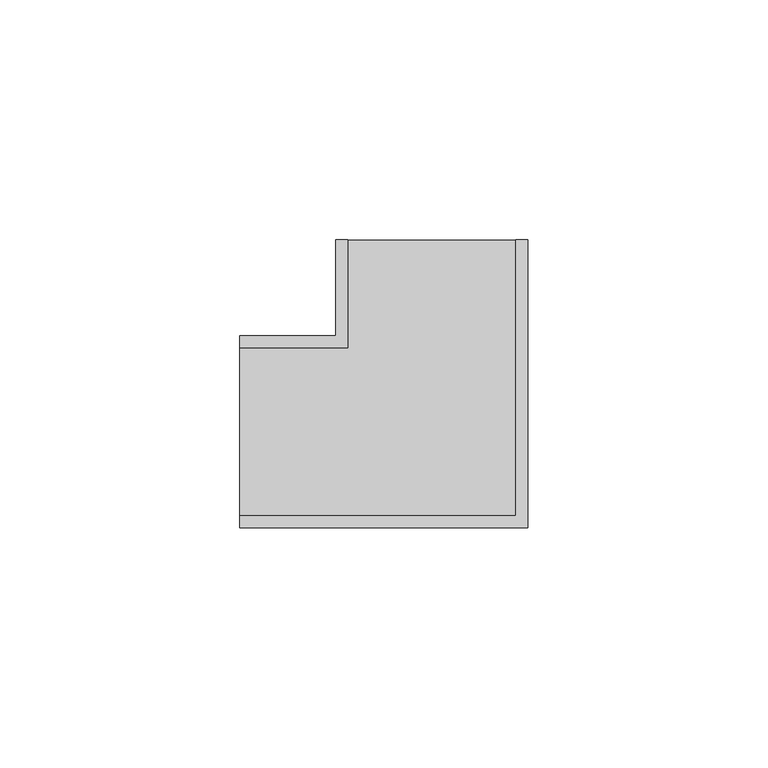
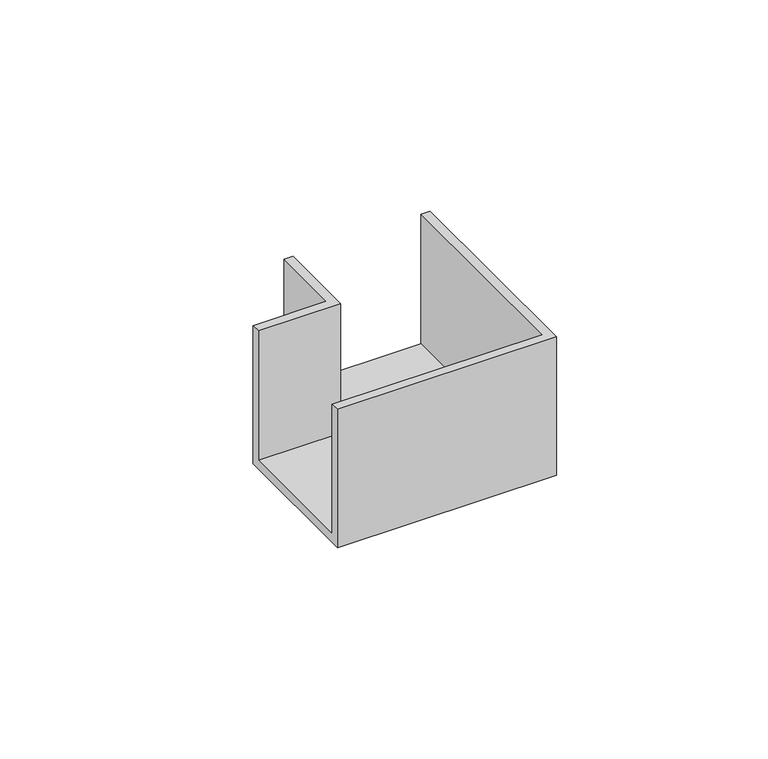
"""IFC4 building model written with IfcOpenShell, lengths in millimetres: cable carrier fitting geometry, КНС_УголПлоский NPAN_ILC_DKC : Угол плоский NPAN_DKC."""

from ifc_helpers import new_model, si_unit, origin, place, context, project, spatial, faceted_brep, source, transform, mapped, element, save


def cable_carrier_fitting_46b331be(model_context):
    return source(origin(), model_context, "Body", "Brep", [
        faceted_brep([(-40.0, 20.0, -20.0), (-40.0, -20.0, -20.0), (-40.0, -20.0, 20.0), (-40.0, -17.5, 20.0), (-40.0, -17.5, -17.5), (-40.0, 17.5, -17.5), (-40.0, 17.5, 20.0), (-40.0, 20.0, 20.0), (-20.0, 20.0, -20.0), (-20.0, 40.0, -20.0), (20.0, 40.0, -20.0), (20.0, -20.0, -20.0), (20.0, -20.0, 20.0), (20.0, 40.0, 20.0), (17.5, 40.0, 20.0), (17.5, -17.5, 20.0), (17.5, -17.5, -17.5), (17.5, 40.0, -17.5), (-17.5, 40.0, -17.5), (-17.5, 17.5, -17.5), (-17.5, 17.5, 20.0), (-17.5, 40.0, 20.0), (-20.0, 40.0, 20.0), (-20.0, 20.0, 20.0)], [[[0, 1, 2, 3, 4, 5, 6, 7]], [[1, 0, 8, 9, 10, 11]], [[2, 1, 11, 12]], [[3, 2, 12, 13, 14, 15]], [[4, 3, 15, 16]], [[5, 4, 16, 17, 18, 19]], [[6, 5, 19, 20]], [[7, 6, 20, 21, 22, 23]], [[0, 7, 23, 8]], [[9, 22, 21, 18, 17, 14, 13, 10]], [[12, 11, 10, 13]], [[16, 15, 14, 17]], [[20, 19, 18, 21]], [[8, 23, 22, 9]]]),
    ])


if __name__ == "__main__":
    model = new_model("IFC4")
    model_context = context("Model", 3, world=origin())
    ifc_project = project(units=[si_unit("LENGTHUNIT", "METRE", prefix="MILLI")], contexts=[model_context])
    site = spatial("IfcSite", under=ifc_project)
    building = spatial("IfcBuilding", under=site)
    placement = place(None, origin())
    cable_carrier_fitting_shape = cable_carrier_fitting_46b331be(model_context)
    element("IfcCableCarrierFitting", 1, ObjectType="КНС_УголПлоский NPAN_ILC_DKC : Угол плоский NPAN_DKC", at=placement, inside=building, context=model_context, shape_type="MappedRepresentation", body=[
        mapped(cable_carrier_fitting_shape, transform((0.0, 0.0, 0.0), x_axis=(1.0, 0.0, 0.0), y_axis=(0.0, 1.0, 0.0), z_axis=(0.0, 0.0, 1.0))),
    ])
    save(model, "model.ifc")
